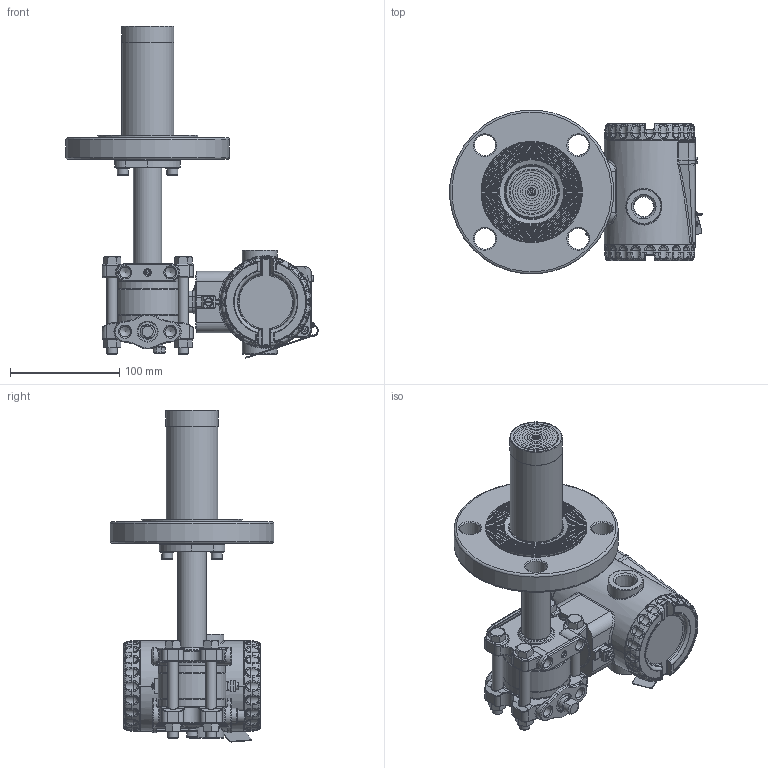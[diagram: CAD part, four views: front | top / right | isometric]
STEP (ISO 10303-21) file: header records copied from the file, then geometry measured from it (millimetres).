
FILE_DESCRIPTION(/* description */ (''),/* implementation_level */ '2;1');
FILE_NAME(/* name */ 'F:\Area\Desenvolvimento_2\Projects\Sensor\projetos\LD400-3d\dimensionais 3D clientes\LD400L\LD400L 2-150 RF ext 100 ref 1-4NPT purga acima.stp',/* time_stamp */ '2023-02-23T15:18:42-03:00',/* author */ ('inventor02'),/* organization */ (''),/* preprocessor_version */ 'ST-DEVELOPER v17',/* originating_system */ 'Autodesk Inventor 2019',/* authorisation */ '');
FILE_SCHEMA (('CONFIG_CONTROL_DESIGN'));
Products named in the file (41): LD30XL 2-150 RF ext 100 ref 1-4NPT purga acima; 204-0301-L-2 150 RF ext 100 purga acima; nivel fx3 com baixa diferencial 1-4NPT purga acima; involucro fx0-3 apos a usinagem final; flange diferencial std purga; 101-C-7484-01 flange selo nivel VR; 201-A-0504-tubo união teste 1; bujao 1-4NPT; Sangria; Porca 3-8 x 16 UNC; Paraf. 3-8 x 16 UNC; adaptação tubo x flanges 1-1-2 a 4pol; 101-B-0161-anel cortado do tubo - teste1; 101-B-0162-flange fixação tubo; ANSI B18.3.1M - M6x1 x 16; DIN 127 - A 6; flange 2 150 ext 100; 101-C-0108-10; 101-B-7700-01-100; 101-B-0168-11; Carcaça 400 com tampas e plaqueta sem letras; 101-D-0845-05 carcaça LD400 sem letras; 101-B-3614-03-tampa 400 sem letras; Tampa visor 400 montada sem letras; 101-B-3612-05 tampa visor 400 sem letras; 101-A-6107; oring 2034; 00034775-0; WHW_250; DIN 915 - M6 x 10; Chapa aterramento externo; 201-A-1771-02 inserto terra recartilhado; AS 1969 - ST4,2; ISO 1207 - M4 x 8; ANSI B18.3.1M - M4x0,7 x 8; Subconjunto plaqueta 400; plaqueta 400 em branco; Parafuso da Plaqueta; Rebite da Plaqueta; 096-A-0169-03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
Assembly tree (50 placements, depth 4):
  LD30XL 2-150 RF ext 100 ref 1-4NPT purga acima
    204-0301-L-2 150 RF ext 100 purga acima
      nivel fx3 com baixa diferencial 1-4NPT purga acima
        involucro fx0-3 apos a usinagem final
        flange diferencial std purga
        101-C-7484-01 flange selo nivel VR
        201-A-0504-tubo união teste 1
        DIN 915 - M6 x 10
        bujao 1-4NPT
        Sangria
        Porca 3-8 x 16 UNC  x4
        Paraf. 3-8 x 16 UNC  x4
      adaptação tubo x flanges 1-1-2 a 4pol
        101-B-0161-anel cortado do tubo - teste1
        101-B-0162-flange fixação tubo
        ANSI B18.3.1M - M6x1 x 16  x2
        DIN 127 - A 6  x2
      flange 2 150 ext 100
        101-C-0108-10
        101-B-7700-01-100
        101-B-0168-11
    Carcaça 400 com tampas e plaqueta sem letras
      101-D-0845-05 carcaça LD400 sem letras
      101-B-3614-03-tampa 400 sem letras
      Tampa visor 400 montada sem letras
        101-B-3612-05 tampa visor 400 sem letras
        101-A-6107
        oring 2034
        00034775-0
        WHW_250
      DIN 915 - M6 x 10
      Chapa aterramento externo
      201-A-1771-02 inserto terra recartilhado
      AS 1969 - ST4,2
      ISO 1207 - M4 x 8
      ANSI B18.3.1M - M4x0,7 x 8  x2
      Subconjunto plaqueta 400
        plaqueta 400 em branco
        Parafuso da Plaqueta
        Rebite da Plaqueta
        096-A-0169-03
        101-A-0502-01
Bounding box: 230.47 x 149.43 x 303.42 mm (x, y, z)
Volume: 1030751.1 mm3; surface area: 339218.5 mm2
Topology: 43 solids, 43 shells, 2779 faces, 6729 edges, 4040 vertices
Faces by surface type: plane 730, cylinder 664, bspline 604, torus 483, cone 222, sphere 76
Full cylindrical faces by diameter (mm): 2 x4, 2.1 x1, 2.2 x1, 2.459 x3, 2.5 x1, 2.7 x1, 2.8 x1, 3 x4, 3.242 x3, 3.5 x1, 3.571 x1, 4 x5, 4.3 x2, 4.4 x1, 4.917 x4, 5 x1, 5.5 x3, 6 x6, 6.1 x2, 6.2 x1, 6.647 x1, 7 x5, 7.6 x2, 7.798 x4, 8 x1, 9.525 x4, 9.728 x6, 10 x2, 10.5 x8, 10.719 x2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
Entity records: 98938 total; most frequent: CARTESIAN_POINT 37110, DIRECTION 12760, ORIENTED_EDGE 12698, EDGE_CURVE 6349, AXIS2_PLACEMENT_3D 5469, VERTEX_POINT 3846, CIRCLE 3177, EDGE_LOOP 2823
